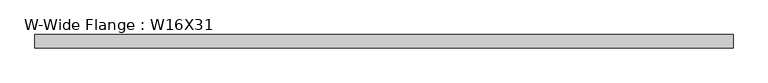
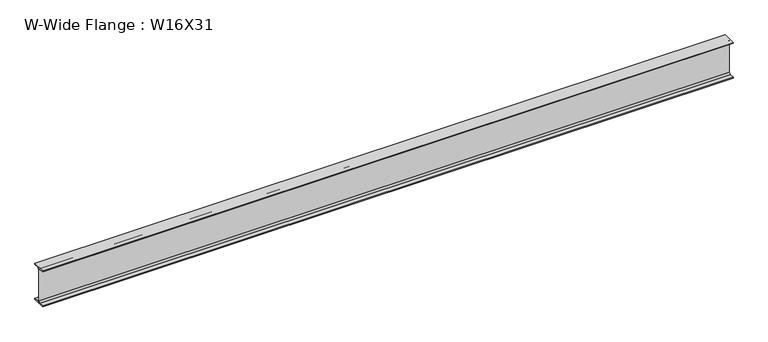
"""IFC4 building model written with IfcOpenShell, lengths in millimetres: beam geometry, W-Wide Flange : W16X31."""

from ifc_helpers import new_model, si_unit, point, frame, frame_2d, origin, place, context, project, spatial, polyline, circle_curve, trimmed, segment, composite_curve, outline, extrude, source, transform, mapped, element, save


def w_wide_flange_w16x31_013d4ff7(model_context):
    return source(origin(), model_context, "Body", "SweptSolid", [
        extrude(outline(composite_curve([segment(polyline([(70.231, -190.754), (70.231, -201.93), (-70.231, -201.93), (-70.231, -190.754), (-20.8915, -190.754)]), True, "CONTINUOUS"), segment(trimmed(circle_curve(frame_2d((-20.8915, -173.355)), 17.399), [point((-20.8915, -190.754))], [point((-3.4925, -173.355))], True, "CARTESIAN"), True, "CONTINUOUS"), segment(polyline([(-3.4925, -173.355), (-3.4925, 173.355)]), True, "CONTINUOUS"), segment(trimmed(circle_curve(frame_2d((-20.8915, 173.355)), 17.399), [point((-3.4925, 173.355))], [point((-20.8915, 190.754))], True, "CARTESIAN"), True, "CONTINUOUS"), segment(polyline([(-20.8915, 190.754), (-70.231, 190.754), (-70.231, 201.93), (70.231, 201.93), (70.231, 190.754), (20.8915, 190.754)]), True, "CONTINUOUS"), segment(trimmed(circle_curve(frame_2d((20.8915, 173.355)), 17.399), [point((20.8915, 190.754))], [point((3.4925, 173.355))], True, "CARTESIAN"), True, "CONTINUOUS"), segment(polyline([(3.4925, 173.355), (3.4925, -173.355)]), True, "CONTINUOUS"), segment(trimmed(circle_curve(frame_2d((20.8915, -173.355)), 17.399), [point((3.4925, -173.355))], [point((20.8915, -190.754))], True, "CARTESIAN"), True, "CONTINUOUS"), segment(polyline([(20.8915, -190.754), (70.231, -190.754)]), True, "CONTINUOUS")], self_intersect=False)), frame((-3613.7120876, 0.0, 0.0), z_axis=(1.0, 0.0, 0.0), x_axis=(0.0, 1.0, 0.0)), (0.0, 0.0, 1.0), 7328.9404921),
    ])


if __name__ == "__main__":
    model = new_model("IFC4")
    model_context = context("Model", 3, world=origin())
    ifc_project = project(units=[si_unit("LENGTHUNIT", "METRE", prefix="MILLI")], contexts=[model_context])
    site = spatial("IfcSite", under=ifc_project)
    building = spatial("IfcBuilding", under=site)
    placement = place(None, origin())
    w_wide_flange_w16x31_shape = w_wide_flange_w16x31_013d4ff7(model_context)
    element("IfcBeam", 1, ObjectType="W-Wide Flange : W16X31", at=placement, inside=building, context=model_context, shape_type="MappedRepresentation", body=[
        mapped(w_wide_flange_w16x31_shape, transform((0.0, 0.0, 0.0), x_axis=(1.0, 0.0, 0.0), y_axis=(0.0, 1.0, 0.0), z_axis=(0.0, 0.0, 1.0))),
    ])
    save(model, "model.ifc")
